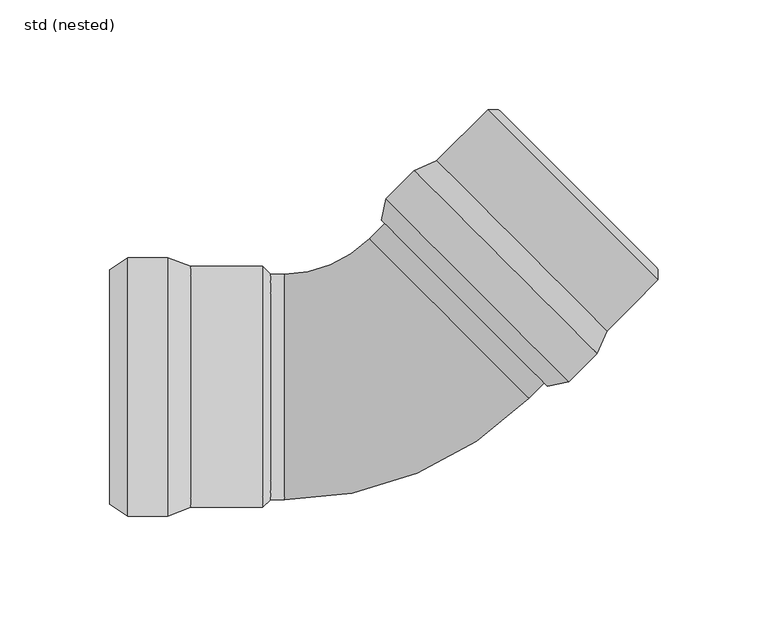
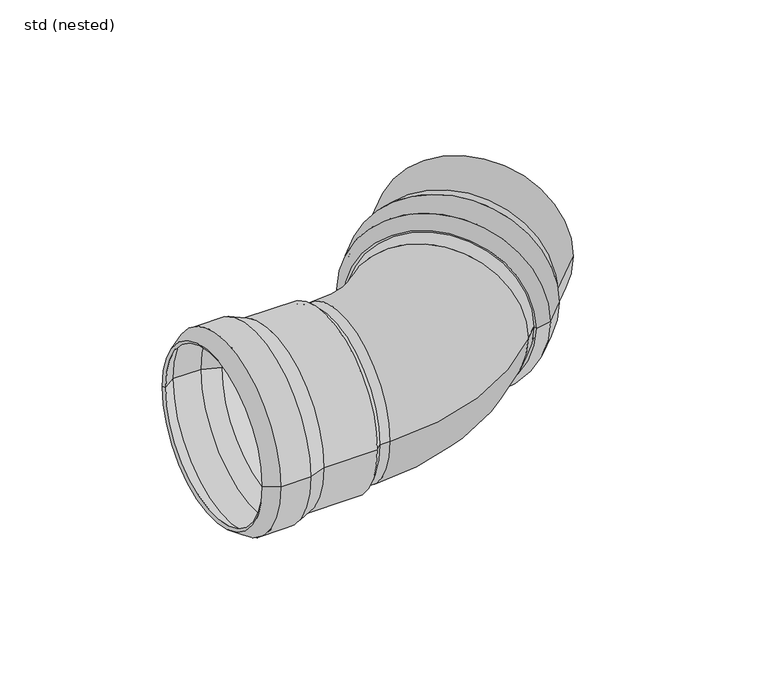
"""IFC4 building model written with IfcOpenShell, lengths in millimetres: pipe fitting geometry, ZZZ_do not use_PIF_ST_UN_GM-X pipe bend_ACO : std (nested)."""

import ifcopenshell
import ifcopenshell.guid

model = None  # the IFC model being written
_history = None  # IfcOwnerHistory: only IFC2X3 demands one
_inside = {}  # id of a spatial element -> (the spatial element, [elements in it])
_under = {}  # id of a project, library or spatial element -> (it, [spatial elements below it])
_declared = {}  # id of a project -> (the project, [libraries it declares])
_typed = {}  # id of a type object -> (the type object, [elements of that type])
_made_of = {}  # id of a material, layer set ... -> (it, [elements and type objects made of it])


def new_model(schema):
    """Start an empty IFC model of exactly this schema.

    Asked for "IFC4X3", IfcOpenShell would pick the latest addendum, in which some entities
    have other attributes; the version numbers below select the first issue.
    IFC2X3 requires an IfcOwnerHistory on every rooted entity: one is made here for all.
    """
    global model, _history
    if schema == "IFC4X3":
        model = ifcopenshell.file(schema_version=(4, 3, 0, 0))
    else:
        model = ifcopenshell.file(schema=schema)
    _inside.clear()
    _under.clear()
    _declared.clear()
    _typed.clear()
    _made_of.clear()
    _history = None
    if model.schema == "IFC2X3":
        org = make("IfcOrganization", Name="unknown")
        user = make(
            "IfcPersonAndOrganization",
            ThePerson=make("IfcPerson", FamilyName="unknown"),
            TheOrganization=org,
        )
        app = make(
            "IfcApplication",
            ApplicationDeveloper=org,
            Version="unknown",
            ApplicationFullName="unknown",
            ApplicationIdentifier="unknown",
        )
        _history = make(
            "IfcOwnerHistory",
            OwningUser=user,
            OwningApplication=app,
            ChangeAction="ADDED",
            CreationDate=0,
        )
    return model


def make(cls, **values):
    """One entity of the class cls with the attributes given. An attribute that is None is left unset."""
    return model.create_entity(
        cls, **{name: value for name, value in values.items() if value is not None}
    )


def rooted(cls, **values):
    """An entity with a GlobalId (a new one), such as an element, a storey or a relation."""
    return make(cls, GlobalId=ifcopenshell.guid.new(), OwnerHistory=_history, **values)


def si_unit(unit_type, name, prefix=None):
    """IfcSIUnit, for example si_unit("LENGTHUNIT", "METRE", prefix="MILLI")."""
    return make("IfcSIUnit", UnitType=unit_type, Prefix=prefix, Name=name)


def assignment(units):
    """IfcUnitAssignment: the units of a project."""
    return None if units is None else make("IfcUnitAssignment", Units=units)


def point(xyz):
    """IfcCartesianPoint."""
    return None if xyz is None else make("IfcCartesianPoint", Coordinates=xyz)


def direction(xyz):
    """IfcDirection."""
    return None if xyz is None else make("IfcDirection", DirectionRatios=xyz)


def frame(location, z_axis=None, x_axis=None):
    """IfcAxis2Placement3D, a coordinate frame: its origin and axes. An axis left out is left unset."""
    return make(
        "IfcAxis2Placement3D",
        Location=point(location),
        Axis=direction(z_axis),
        RefDirection=direction(x_axis),
    )


def origin():
    """The frame at (0, 0, 0) with its axes left unset."""
    return frame((0.0, 0.0, 0.0))


def place(relative_to, where):
    """IfcLocalPlacement: puts the frame where relative to a parent placement (None: the world)."""
    return make(
        "IfcLocalPlacement", PlacementRelTo=relative_to, RelativePlacement=where
    )


def context(
    kind, dimensions, precision=None, world=None, true_north=None, identifier=None
):
    """IfcGeometricRepresentationContext, for example the 3D "Model" context."""
    return make(
        "IfcGeometricRepresentationContext",
        ContextIdentifier=identifier,
        ContextType=kind,
        CoordinateSpaceDimension=dimensions,
        Precision=precision,
        WorldCoordinateSystem=world,
        TrueNorth=true_north,
    )


def project(units=None, contexts=None):
    """IfcProject with its units and contexts."""
    return rooted(
        "IfcProject",
        Name="project",
        RepresentationContexts=contexts,
        UnitsInContext=assignment(units),
    )


def spatial(cls, under=None, at=None, **own):
    """A site, building, storey or space (cls), placed at a placement, below another one or the project."""
    s = rooted(cls, ObjectPlacement=at, **own)
    if under is not None:
        _under.setdefault(under.id(), (under, []))[1].append(s)
    return s


def polyline(points):
    """IfcPolyline through the points."""
    return make("IfcPolyline", Points=[point(p) for p in points])


def circle_curve(where, radius):
    """IfcCircle in the frame where."""
    return make("IfcCircle", Position=where, Radius=radius)


def ellipse_curve(where, semi_axis1, semi_axis2):
    """IfcEllipse in the frame where."""
    return make(
        "IfcEllipse", Position=where, SemiAxis1=semi_axis1, SemiAxis2=semi_axis2
    )


def trimmed(basis, trim1, trim2, sense, master):
    """IfcTrimmedCurve: the piece of a basis curve between two trims."""
    return make(
        "IfcTrimmedCurve",
        BasisCurve=basis,
        Trim1=trim1,
        Trim2=trim2,
        SenseAgreement=sense,
        MasterRepresentation=master,
    )


def shape(context_of_items, identifier, shape_type, items):
    """IfcShapeRepresentation: the items that make up one representation, for example the "Body"."""
    return make(
        "IfcShapeRepresentation",
        ContextOfItems=context_of_items,
        RepresentationIdentifier=identifier,
        RepresentationType=shape_type,
        Items=items,
    )


def source(mapping_origin, context_of_items, identifier, shape_type, items):
    """IfcRepresentationMap: a shape defined once, which mapped items show again and again."""
    return make(
        "IfcRepresentationMap",
        MappingOrigin=mapping_origin,
        MappedRepresentation=shape(context_of_items, identifier, shape_type, items),
    )


def transform(
    local_origin,
    x_axis=None,
    y_axis=None,
    z_axis=None,
    scale=None,
    scale2=None,
    scale3=None,
    uniform=True,
):
    """IfcCartesianTransformationOperator3D, or its non-uniform kind. x_axis, y_axis, z_axis: its Axis1, 2, 3."""
    if uniform:
        return make(
            "IfcCartesianTransformationOperator3D",
            Axis1=direction(x_axis),
            Axis2=direction(y_axis),
            LocalOrigin=point(local_origin),
            Scale=scale,
            Axis3=direction(z_axis),
        )
    return make(
        "IfcCartesianTransformationOperator3DnonUniform",
        Axis1=direction(x_axis),
        Axis2=direction(y_axis),
        LocalOrigin=point(local_origin),
        Scale=scale,
        Axis3=direction(z_axis),
        Scale2=scale2,
        Scale3=scale3,
    )


def mapped(mapping_source, mapping_target):
    """IfcMappedItem: shows the shape of a source again, moved by a transform."""
    return make(
        "IfcMappedItem", MappingSource=mapping_source, MappingTarget=mapping_target
    )


def made_of(thing, what):
    """Note that an element or type object is made of a material, layer set ...; save() writes the relation."""
    if what is not None:
        _made_of.setdefault(what.id(), (what, []))[1].append(thing)
    return thing


def element(
    cls,
    number,
    at=None,
    inside=None,
    cuts=None,
    type_object=None,
    material=None,
    context=None,
    identifier="Body",
    shape_type=None,
    held_by="IfcProductDefinitionShape",
    body=None,
    shapes=None,
    **own,
):
    """One element of the class cls, such as IfcWall. Its Tag is "e" and its number.

    at: its placement. inside: the storey or other place that contains it. cuts: it is an
    opening in that element (IfcRelVoidsElement). A single representation is given by context,
    identifier, shape_type and body (its items); several are given by shapes. held_by: the class
    of the entity that holds the representations. save() writes the other relations.
    """
    e = rooted(cls, Tag="e%d" % number, ObjectPlacement=at, **own)
    if body is not None:
        shapes = [shape(context, identifier, shape_type, body)]
    if shapes is not None:
        e.Representation = make(held_by, Representations=shapes)
    if inside is not None:
        _inside.setdefault(inside.id(), (inside, []))[1].append(e)
    if cuts is not None:
        rooted(
            "IfcRelVoidsElement", RelatingBuildingElement=cuts, RelatedOpeningElement=e
        )
    if type_object is not None:
        _typed.setdefault(type_object.id(), (type_object, []))[1].append(e)
    return made_of(e, material)


def aggregate(whole, parts):
    """IfcRelAggregates: a whole, such as a stair, and the parts it consists of."""
    return rooted("IfcRelAggregates", RelatingObject=whole, RelatedObjects=parts)


def save(model, path):
    """Write the relations noted so far, then the file.

    IfcRelAggregates (storeys below a building ...), IfcRelContainedInSpatialStructure (elements
    in a storey), IfcRelDefinesByType, IfcRelAssociatesMaterial and IfcRelDeclares: one each for
    every whole, place, type object, material and project.
    """
    for whole, parts in _under.values():
        aggregate(whole, parts)
    for where, things in _inside.values():
        rooted(
            "IfcRelContainedInSpatialStructure",
            RelatedElements=things,
            RelatingStructure=where,
        )
    for kind, things in _typed.values():
        rooted("IfcRelDefinesByType", RelatedObjects=things, RelatingType=kind)
    for what, things in _made_of.values():
        rooted("IfcRelAssociatesMaterial", RelatedObjects=things, RelatingMaterial=what)
    for by, libraries in _declared.values():
        rooted("IfcRelDeclares", RelatingContext=by, RelatedDefinitions=libraries)
    model.write(path)


def plane_surface(at):
    """IfcPlane: the flat surface through the origin of the frame at, square to its z axis."""
    return make("IfcPlane", Position=at)


def cylinder_surface(at, radius):
    """IfcCylindricalSurface: all points at the distance radius from the z axis of the frame at."""
    return make("IfcCylindricalSurface", Position=at, Radius=radius)


def revolved_surface(curve, axis_point, axis_direction):
    """IfcSurfaceOfRevolution: the curve turned about the line through axis_point along axis_direction."""
    return make(
        "IfcSurfaceOfRevolution",
        SweptCurve=make("IfcArbitraryOpenProfileDef", ProfileType="CURVE", Curve=curve),
        AxisPosition=make("IfcAxis1Placement", Location=point(axis_point), Axis=direction(axis_direction)),
    )


def advanced_brep(points, edges, surfaces, faces):
    """IfcAdvancedBrep: a solid bounded by faces that lie on surfaces and meet in shared edges.

    An edge is (start, end): straight between two places in points (the first is 0);
    or (start, end, curve); or (start, end, curve, False) where it runs against its curve.
    A face is (place in surfaces, loops), or (place, loops, False) where it looks against
    its surface's normal. A loop lists edges by number (the first is 1), with a minus sign
    where the edge is run from its end to its start. The first loop is the outer one.
    """
    corners = [point(p) for p in points]
    vertices = [make("IfcVertexPoint", VertexGeometry=c) for c in corners]
    made = []
    for start, end, *more in edges:
        made.append(
            make(
                "IfcEdgeCurve",
                EdgeStart=vertices[start],
                EdgeEnd=vertices[end],
                EdgeGeometry=more[0] if more else make("IfcPolyline", Points=[corners[start], corners[end]]),
                SameSense=more[1] if len(more) > 1 else True,
            )
        )
    hull = []
    for where, loops, *sense in faces:
        bounds = []
        for j, loop in enumerate(loops):
            ring = [make("IfcOrientedEdge", EdgeElement=made[abs(k) - 1], Orientation=k > 0) for k in loop]
            bounds.append(
                make(
                    "IfcFaceOuterBound" if j == 0 else "IfcFaceBound",
                    Bound=make("IfcEdgeLoop", EdgeList=ring),
                    Orientation=True,
                )
            )
        hull.append(make("IfcAdvancedFace", Bounds=bounds, FaceSurface=surfaces[where], SameSense=sense[0] if sense else True))
    return make("IfcAdvancedBrep", Outer=make("IfcClosedShell", CfsFaces=hull))


def std_nested_e6348f04(model_context):
    return source(origin(), model_context, "Body", "AdvancedBrep", [
        advanced_brep(
        [(15.2027958, 98.641396, 0.0), (98.641396, 15.2027958, 0.0), (85.7720526, 2.3334524, 0.0), (2.3334524, 85.7720526, 0.0), (25.4558441, 103.2375901, 0.0), (103.2375901, 25.4558441, 0.0), (76.013979, 0.3535534, 0.0), (0.3535534, 76.013979, 0.0), (48.7903679, 126.5721138, 0.0), (126.5721138, 48.7903679, 0.0), (53.7401154, 126.5721138, 0.0), (126.5721138, 53.7401154, 0.0), (51.2652416, 124.0972401, 0.0), (124.0972401, 51.2652416, 0.0), (26.6098061, 101.5631249, 0.0), (101.5631249, 26.6098061, 0.0), (125.1579003, 50.2045815, 0.0), (50.2045815, 125.1579003, 0.0), (16.3567578, 96.9669309, 0.0), (96.9669309, 16.3567578, 0.0), (4.173706, 84.7838791, 0.0), (84.7838791, 4.173706, 0.0), (2.3136146, 75.6162854, 0.0), (75.6162854, 2.3136146, 0.0)],
        [
            (0, 1, circle_curve(frame((56.9220959, 56.9220959, 0.0), z_axis=(-0.7071067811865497, -0.7071067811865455, 0.0), x_axis=(0.7071067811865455, -0.7071067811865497, 0.0)), 59.0)),
            (1, 2),
            (2, 3, circle_curve(frame((44.0527525, 44.0527525, 0.0), z_axis=(0.7071067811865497, 0.7071067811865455, 0.0), x_axis=(0.7071067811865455, -0.7071067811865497, 0.0)), 59.0)),
            (3, 0),
            (1, 0, circle_curve(frame((56.9220959, 56.9220959, 0.0), z_axis=(-0.7071067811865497, -0.7071067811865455, 0.0), x_axis=(0.7071067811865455, -0.7071067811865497, 0.0)), 59.0)),
            (3, 2, circle_curve(frame((44.0527525, 44.0527525, 0.0), z_axis=(0.7071067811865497, 0.7071067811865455, 0.0), x_axis=(0.7071067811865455, -0.7071067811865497, 0.0)), 59.0)),
            (4, 5, circle_curve(frame((64.3467171, 64.3467171, 0.0), z_axis=(-0.7071067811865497, -0.7071067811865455, 0.0), x_axis=(0.7071067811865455, -0.7071067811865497, 0.0)), 55.0)),
            (5, 1),
            (0, 4),
            (5, 4, circle_curve(frame((64.3467171, 64.3467171, 0.0), z_axis=(-0.7071067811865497, -0.7071067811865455, 0.0), x_axis=(0.7071067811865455, -0.7071067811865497, 0.0)), 55.0)),
            (2, 6),
            (6, 7, circle_curve(frame((38.1837662, 38.1837662, 0.0), z_axis=(0.7071067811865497, 0.7071067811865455, 0.0), x_axis=(0.7071067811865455, -0.7071067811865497, 0.0)), 53.5)),
            (7, 3),
            (7, 6, circle_curve(frame((38.1837662, 38.1837662, 0.0), z_axis=(0.7071067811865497, 0.7071067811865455, 0.0), x_axis=(0.7071067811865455, -0.7071067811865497, 0.0)), 53.5)),
            (8, 9, circle_curve(frame((87.6812409, 87.6812409, 0.0), z_axis=(-0.7071067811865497, -0.7071067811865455, 0.0), x_axis=(0.7071067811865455, -0.7071067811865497, 0.0)), 55.0)),
            (9, 5),
            (4, 8),
            (9, 8, circle_curve(frame((87.6812409, 87.6812409, 0.0), z_axis=(-0.7071067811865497, -0.7071067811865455, 0.0), x_axis=(0.7071067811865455, -0.7071067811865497, 0.0)), 55.0)),
            (10, 11, circle_curve(frame((90.1561146, 90.1561146, 0.0), z_axis=(-0.7071067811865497, -0.7071067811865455, 0.0), x_axis=(0.7071067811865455, -0.7071067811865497, 0.0)), 51.5)),
            (11, 9),
            (8, 10),
            (11, 10, circle_curve(frame((90.1561146, 90.1561146, 0.0), z_axis=(-0.7071067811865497, -0.7071067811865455, 0.0), x_axis=(0.7071067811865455, -0.7071067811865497, 0.0)), 51.5)),
            (12, 13, circle_curve(frame((87.6812409, 87.6812409, 0.0), z_axis=(-0.7071067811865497, -0.7071067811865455, 0.0), x_axis=(0.7071067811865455, -0.7071067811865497, 0.0)), 51.5)),
            (13, 11),
            (10, 12),
            (13, 12, circle_curve(frame((87.6812409, 87.6812409, 0.0), z_axis=(-0.7071067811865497, -0.7071067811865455, 0.0), x_axis=(0.7071067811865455, -0.7071067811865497, 0.0)), 51.5)),
            (14, 15, circle_curve(frame((64.0864655, 64.0864655, 0.0), z_axis=(-0.7071067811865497, -0.7071067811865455, 0.0), x_axis=(0.7071067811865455, -0.7071067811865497, 0.0)), 53.0)),
            (15, 16),
            (16, 17, circle_curve(frame((87.6812409, 87.6812409, 0.0), z_axis=(0.7071067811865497, 0.7071067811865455, 0.0), x_axis=(0.7071067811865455, -0.7071067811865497, 0.0)), 53.0)),
            (17, 14),
            (15, 14, circle_curve(frame((64.0864655, 64.0864655, 0.0), z_axis=(-0.7071067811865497, -0.7071067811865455, 0.0), x_axis=(0.7071067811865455, -0.7071067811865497, 0.0)), 53.0)),
            (17, 16, circle_curve(frame((87.6812409, 87.6812409, 0.0), z_axis=(0.7071067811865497, 0.7071067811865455, 0.0), x_axis=(0.7071067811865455, -0.7071067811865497, 0.0)), 53.0)),
            (18, 19, circle_curve(frame((56.6618443, 56.6618443, 0.0), z_axis=(-0.7071067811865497, -0.7071067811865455, 0.0), x_axis=(0.7071067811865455, -0.7071067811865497, 0.0)), 57.0)),
            (19, 15),
            (14, 18),
            (19, 18, circle_curve(frame((56.6618443, 56.6618443, 0.0), z_axis=(-0.7071067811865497, -0.7071067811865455, 0.0), x_axis=(0.7071067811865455, -0.7071067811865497, 0.0)), 57.0)),
            (20, 21, circle_curve(frame((44.4787926, 44.4787926, 0.0), z_axis=(-0.7071067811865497, -0.7071067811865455, 0.0), x_axis=(0.7071067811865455, -0.7071067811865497, 0.0)), 57.0)),
            (21, 19),
            (18, 20),
            (21, 20, circle_curve(frame((44.4787926, 44.4787926, 0.0), z_axis=(-0.7071067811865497, -0.7071067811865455, 0.0), x_axis=(0.7071067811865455, -0.7071067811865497, 0.0)), 57.0)),
            (22, 23, circle_curve(frame((38.96495, 38.96495, 0.0), z_axis=(-0.7071067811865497, -0.7071067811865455, 0.0), x_axis=(0.7071067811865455, -0.7071067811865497, 0.0)), 51.8328156)),
            (23, 21),
            (20, 22),
            (23, 22, circle_curve(frame((38.96495, 38.96495, 0.0), z_axis=(-0.7071067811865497, -0.7071067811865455, 0.0), x_axis=(0.7071067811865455, -0.7071067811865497, 0.0)), 51.8328156)),
            (6, 23),
            (22, 7),
            (16, 13),
            (12, 17),
        ],
        [
            cylinder_surface(frame((40.5565254, 40.5565254, 0.0), z_axis=(0.7071067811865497, 0.7071067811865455, 0.0), x_axis=(0.7071067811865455, -0.7071067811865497, 0.0)), 59.0),
            revolved_surface(polyline([(98.641396, 15.2027958, 0.0), (103.2375901, 25.4558441, 0.0)]), (40.5565254, 40.5565254, 0.0), (0.7071067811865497, 0.7071067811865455, 0.0)),
            revolved_surface(polyline([(76.013979, 0.3535534, 0.0), (85.7720526, 2.3334524, 0.0)]), (40.5565254, 40.5565254, 0.0), (0.7071067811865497, 0.7071067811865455, 0.0)),
            cylinder_surface(frame((40.5565254, 40.5565254, 0.0), z_axis=(0.7071067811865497, 0.7071067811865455, 0.0), x_axis=(0.7071067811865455, -0.7071067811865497, 0.0)), 55.0),
            revolved_surface(polyline([(126.5721138, 48.7903679, 0.0), (126.5721138, 53.7401154, 0.0)]), (40.5565254, 40.5565254, 0.0), (0.7071067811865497, 0.7071067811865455, 0.0)),
            revolved_surface(polyline([(126.57211383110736, 53.74011536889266, 0.0), (124.09724008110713, 51.265241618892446, 0.0)]), (40.5565254, 40.5565254, 0.0), (0.7071067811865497, 0.7071067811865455, 0.0)),
            revolved_surface(polyline([(125.15790030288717, 50.20458149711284, 0.0), (101.56312490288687, 26.609806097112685, 0.0)]), (40.5565254, 40.5565254, 0.0), (0.7071067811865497, 0.7071067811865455, 0.0)),
            revolved_surface(polyline([(101.5631249, 26.6098061, 0.0), (96.9669309, 16.3567578, 0.0)]), (40.5565254, 40.5565254, 0.0), (0.7071067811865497, 0.7071067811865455, 0.0)),
            revolved_surface(polyline([(96.96693087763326, 16.356757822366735, 0.0), (84.78387907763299, 4.173706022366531, 0.0)]), (40.5565254, 40.5565254, 0.0), (0.7071067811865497, 0.7071067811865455, 0.0)),
            revolved_surface(polyline([(84.7838791, 4.173706, 0.0), (75.6162854, 2.3136146, 0.0)]), (40.5565254, 40.5565254, 0.0), (0.7071067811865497, 0.7071067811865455, 0.0)),
            revolved_surface(polyline([(75.6162854, 2.3136146, 0.0), (76.013979, 0.3535534, 0.0)]), (40.5565254, 40.5565254, 0.0), (0.7071067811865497, 0.7071067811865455, 0.0)),
            plane_surface(frame((87.6812409, 87.6812409, 0.0), z_axis=(-0.7071067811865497, -0.7071067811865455, 0.0), x_axis=(0.7071067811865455, -0.7071067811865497, 0.0))),
        ],
        [
            (0, [[1, 2, 3, 4]]),
            (0, [[5, -4, 6, -2]]),
            (1, [[7, 8, -1, 9]]),
            (1, [[10, -9, -5, -8]]),
            (2, [[-3, 11, 12, 13]]),
            (2, [[-6, -13, 14, -11]]),
            (3, [[15, 16, -7, 17]]),
            (3, [[18, -17, -10, -16]]),
            (4, [[19, 20, -15, 21]]),
            (4, [[22, -21, -18, -20]]),
            (5, [[23, 24, -19, 25]]),
            (5, [[26, -25, -22, -24]]),
            (6, [[27, 28, 29, 30]]),
            (6, [[31, -30, 32, -28]]),
            (7, [[33, 34, -27, 35]]),
            (7, [[36, -35, -31, -34]]),
            (8, [[37, 38, -33, 39]]),
            (8, [[40, -39, -36, -38]]),
            (9, [[41, 42, -37, 43]]),
            (9, [[44, -43, -40, -42]]),
            (10, [[-12, 45, -41, 46]]),
            (10, [[-14, -46, -44, -45]]),
            (11, [[-29, 47, -23, 48]]),
            (11, [[-32, -48, -26, -47]]),
        ],
    ),
        advanced_brep(
        [(-97.5, 59.0, 0.0), (-97.5, -59.0, 0.0), (-115.7, -59.0, 0.0), (-115.7, 59.0, 0.0), (-87.0, 55.0, 0.0), (-87.0, -55.0, 0.0), (-124.0, -53.5, 0.0), (-124.0, 53.5, 0.0), (-54.0, 55.0, 0.0), (-54.0, -55.0, 0.0), (-50.5, 51.5, 0.0), (-50.5, -51.5, 0.0), (-54.0, 51.5, 0.0), (-54.0, -51.5, 0.0), (-87.3680513, 53.0, 0.0), (-87.3680513, -53.0, 0.0), (-54.0, -53.0, 0.0), (-54.0, 53.0, 0.0), (-97.8680513, 57.0, 0.0), (-97.8680513, -57.0, 0.0), (-115.0974883, 57.0, 0.0), (-115.0974883, -57.0, 0.0), (-122.8952393, 51.8328156, 0.0), (-122.8952393, -51.8328156, 0.0)],
        [
            (0, 1, circle_curve(frame((-97.5, 0.0, 0.0), z_axis=(-1.0, 0.0, 0.0), x_axis=(0.0, -1.0, 0.0)), 59.0)),
            (1, 2),
            (2, 3, circle_curve(frame((-115.7, 0.0, 0.0), z_axis=(1.0, 0.0, 0.0), x_axis=(0.0, -1.0, 0.0)), 59.0)),
            (3, 0),
            (1, 0, circle_curve(frame((-97.5, 0.0, 0.0), z_axis=(-1.0, 0.0, 0.0), x_axis=(0.0, -1.0, 0.0)), 59.0)),
            (3, 2, circle_curve(frame((-115.7, 0.0, 0.0), z_axis=(1.0, 0.0, 0.0), x_axis=(0.0, -1.0, 0.0)), 59.0)),
            (4, 5, circle_curve(frame((-87.0, 0.0, 0.0), z_axis=(-1.0, 0.0, 0.0), x_axis=(0.0, -1.0, 0.0)), 55.0)),
            (5, 1),
            (0, 4),
            (5, 4, circle_curve(frame((-87.0, 0.0, 0.0), z_axis=(-1.0, 0.0, 0.0), x_axis=(0.0, -1.0, 0.0)), 55.0)),
            (2, 6),
            (6, 7, circle_curve(frame((-124.0, 0.0, 0.0), z_axis=(1.0, 0.0, 0.0), x_axis=(0.0, -1.0, 0.0)), 53.5)),
            (7, 3),
            (7, 6, circle_curve(frame((-124.0, 0.0, 0.0), z_axis=(1.0, 0.0, 0.0), x_axis=(0.0, -1.0, 0.0)), 53.5)),
            (8, 9, circle_curve(frame((-54.0, 0.0, 0.0), z_axis=(-1.0, 0.0, 0.0), x_axis=(0.0, -1.0, 0.0)), 55.0)),
            (9, 5),
            (4, 8),
            (9, 8, circle_curve(frame((-54.0, 0.0, 0.0), z_axis=(-1.0, 0.0, 0.0), x_axis=(0.0, -1.0, 0.0)), 55.0)),
            (10, 11, circle_curve(frame((-50.5, 0.0, 0.0), z_axis=(-1.0, 0.0, 0.0), x_axis=(0.0, -1.0, 0.0)), 51.5)),
            (11, 9),
            (8, 10),
            (11, 10, circle_curve(frame((-50.5, 0.0, 0.0), z_axis=(-1.0, 0.0, 0.0), x_axis=(0.0, -1.0, 0.0)), 51.5)),
            (12, 13, circle_curve(frame((-54.0, 0.0, 0.0), z_axis=(-1.0, 0.0, 0.0), x_axis=(0.0, -1.0, 0.0)), 51.5)),
            (13, 11),
            (10, 12),
            (13, 12, circle_curve(frame((-54.0, 0.0, 0.0), z_axis=(-1.0, 0.0, 0.0), x_axis=(0.0, -1.0, 0.0)), 51.5)),
            (14, 15, circle_curve(frame((-87.3680513, 0.0, 0.0), z_axis=(-1.0, 0.0, 0.0), x_axis=(0.0, -1.0, 0.0)), 53.0)),
            (15, 16),
            (16, 17, circle_curve(frame((-54.0, 0.0, 0.0), z_axis=(1.0, 0.0, 0.0), x_axis=(0.0, -1.0, 0.0)), 53.0)),
            (17, 14),
            (15, 14, circle_curve(frame((-87.3680513, 0.0, 0.0), z_axis=(-1.0, 0.0, 0.0), x_axis=(0.0, -1.0, 0.0)), 53.0)),
            (17, 16, circle_curve(frame((-54.0, 0.0, 0.0), z_axis=(1.0, 0.0, 0.0), x_axis=(0.0, -1.0, 0.0)), 53.0)),
            (18, 19, circle_curve(frame((-97.8680513, 0.0, 0.0), z_axis=(-1.0, 0.0, 0.0), x_axis=(0.0, -1.0, 0.0)), 57.0)),
            (19, 15),
            (14, 18),
            (19, 18, circle_curve(frame((-97.8680513, 0.0, 0.0), z_axis=(-1.0, 0.0, 0.0), x_axis=(0.0, -1.0, 0.0)), 57.0)),
            (20, 21, circle_curve(frame((-115.0974883, 0.0, 0.0), z_axis=(-1.0, 0.0, 0.0), x_axis=(0.0, -1.0, 0.0)), 57.0)),
            (21, 19),
            (18, 20),
            (21, 20, circle_curve(frame((-115.0974883, 0.0, 0.0), z_axis=(-1.0, 0.0, 0.0), x_axis=(0.0, -1.0, 0.0)), 57.0)),
            (22, 23, circle_curve(frame((-122.8952393, 0.0, 0.0), z_axis=(-1.0, 0.0, 0.0), x_axis=(0.0, -1.0, 0.0)), 51.8328156)),
            (23, 21),
            (20, 22),
            (23, 22, circle_curve(frame((-122.8952393, 0.0, 0.0), z_axis=(-1.0, 0.0, 0.0), x_axis=(0.0, -1.0, 0.0)), 51.8328156)),
            (6, 23),
            (22, 7),
            (16, 13),
            (12, 17),
        ],
        [
            cylinder_surface(frame((-120.6444117, 0.0, 0.0), z_axis=(1.0, 0.0, 0.0), x_axis=(0.0, -1.0, 0.0)), 59.0),
            revolved_surface(polyline([(-97.5, -59.0, 0.0), (-87.0, -55.0, 0.0)]), (-120.6444117, 0.0, 0.0), (1.0, 0.0, 0.0)),
            revolved_surface(polyline([(-124.0, -53.5, 0.0), (-115.7, -59.0, 0.0)]), (-120.6444117, 0.0, 0.0), (1.0, 0.0, 0.0)),
            cylinder_surface(frame((-120.6444117, 0.0, 0.0), z_axis=(1.0, 0.0, 0.0), x_axis=(0.0, -1.0, 0.0)), 55.0),
            revolved_surface(polyline([(-54.0, -55.0, 0.0), (-50.5, -51.5, 0.0)]), (-120.6444117, 0.0, 0.0), (1.0, 0.0, 0.0)),
            revolved_surface(polyline([(-50.5, -51.5, 0.0), (-54.0, -51.5, 0.0)]), (-120.6444117, 0.0, 0.0), (1.0, 0.0, 0.0)),
            revolved_surface(polyline([(-54.0, -53.0, 0.0), (-87.3680513, -53.0, 0.0)]), (-120.6444117, 0.0, 0.0), (1.0, 0.0, 0.0)),
            revolved_surface(polyline([(-87.3680513, -53.0, 0.0), (-97.8680513, -57.0, 0.0)]), (-120.6444117, 0.0, 0.0), (1.0, 0.0, 0.0)),
            revolved_surface(polyline([(-97.8680513, -57.0, 0.0), (-115.0974883, -57.0, 0.0)]), (-120.6444117, 0.0, 0.0), (1.0, 0.0, 0.0)),
            revolved_surface(polyline([(-115.0974883, -57.0, 0.0), (-122.8952393, -51.8328156, 0.0)]), (-120.6444117, 0.0, 0.0), (1.0, 0.0, 0.0)),
            revolved_surface(polyline([(-122.8952393, -51.8328156, 0.0), (-124.0, -53.5, 0.0)]), (-120.6444117, 0.0, 0.0), (1.0, 0.0, 0.0)),
            plane_surface(frame((-54.0, 0.0, 0.0), z_axis=(-1.0, 0.0, 0.0), x_axis=(0.0, -1.0, 0.0))),
        ],
        [
            (0, [[1, 2, 3, 4]]),
            (0, [[5, -4, 6, -2]]),
            (1, [[7, 8, -1, 9]]),
            (1, [[10, -9, -5, -8]]),
            (2, [[-3, 11, 12, 13]]),
            (2, [[-6, -13, 14, -11]]),
            (3, [[15, 16, -7, 17]]),
            (3, [[18, -17, -10, -16]]),
            (4, [[19, 20, -15, 21]]),
            (4, [[22, -21, -18, -20]]),
            (5, [[23, 24, -19, 25]]),
            (5, [[26, -25, -22, -24]]),
            (6, [[27, 28, 29, 30]]),
            (6, [[31, -30, 32, -28]]),
            (7, [[33, 34, -27, 35]]),
            (7, [[36, -35, -31, -34]]),
            (8, [[37, 38, -33, 39]]),
            (8, [[40, -39, -36, -38]]),
            (9, [[41, 42, -37, 43]]),
            (9, [[44, -43, -40, -42]]),
            (10, [[-12, 45, -41, 46]]),
            (10, [[-14, -46, -44, -45]]),
            (11, [[-29, 47, -23, 48]]),
            (11, [[-32, -48, -26, -47]]),
        ],
    ),
        advanced_brep(
        [(-5.3033009, 67.5286976, 0.0), (-44.0, 51.5, 0.0), (-44.0, -51.5, 0.0), (67.5286976, -5.3033009, 0.0), (31.1126984, 31.1126984, 51.5), (31.1126984, 31.1126984, -51.5), (-54.0, -51.5, 0.0), (-54.0, 51.5, 0.0), (124.0972401, 51.2652416, 0.0), (51.2652416, 124.0972401, 0.0)],
        [
            (0, 1, circle_curve(frame((-44.0, 106.2253967, 0.0), z_axis=(0.0, 0.0, -1.0), x_axis=(0.0, -1.0, 0.0)), 54.7253967)),
            (1, 2, circle_curve(frame((-44.0, 0.0, 0.0), z_axis=(1.0, 0.0, 0.0), x_axis=(0.0, 1.0, 0.0)), 51.5)),
            (2, 3, circle_curve(frame((-44.0, 106.2253967, 0.0), z_axis=(0.0, 0.0, 1.0), x_axis=(0.0, -1.0, 0.0)), 157.7253967)),
            (3, 4, circle_curve(frame((31.1126984, 31.1126984, 0.0), z_axis=(-0.7071067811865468, -0.7071067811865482, 0.0), x_axis=(-0.7071067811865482, 0.7071067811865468, 0.0)), 51.5)),
            (4, 0, circle_curve(frame((31.1126984, 31.1126984, 0.0), z_axis=(-0.7071067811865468, -0.7071067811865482, 0.0), x_axis=(-0.7071067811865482, 0.7071067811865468, 0.0)), 51.5)),
            (0, 5, circle_curve(frame((31.1126984, 31.1126984, 0.0), z_axis=(-0.7071067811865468, -0.7071067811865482, 0.0), x_axis=(-0.7071067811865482, 0.7071067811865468, 0.0)), 51.5)),
            (5, 3, circle_curve(frame((31.1126984, 31.1126984, 0.0), z_axis=(-0.7071067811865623, -0.7071067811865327, 0.0), x_axis=(-0.7071067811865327, 0.7071067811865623, 0.0)), 51.5)),
            (2, 1, circle_curve(frame((-44.0, 0.0, 0.0), z_axis=(1.0, 0.0, 0.0), x_axis=(0.0, 1.0, 0.0)), 51.5)),
            (6, 7, circle_curve(frame((-54.0, 0.0, 0.0), z_axis=(-1.0, 0.0, 0.0), x_axis=(0.0, 1.0, 0.0)), 51.5)),
            (7, 6, circle_curve(frame((-54.0, 0.0, 0.0), z_axis=(-1.0, 0.0, 0.0), x_axis=(0.0, 1.0, 0.0)), 51.5)),
            (7, 1),
            (2, 6),
            (8, 9, circle_curve(frame((87.6812409, 87.6812409, 0.0), z_axis=(0.707106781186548, 0.7071067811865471, 0.0), x_axis=(-0.7071067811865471, 0.707106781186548, 0.0)), 51.5)),
            (9, 8, circle_curve(frame((87.6812409, 87.6812409, 0.0), z_axis=(0.707106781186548, 0.7071067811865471, 0.0), x_axis=(-0.7071067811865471, 0.707106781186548, 0.0)), 51.5)),
            (9, 0),
            (3, 8),
        ],
        [
            revolved_surface(trimmed(ellipse_curve(frame((-44.0, 0.0, 0.0), z_axis=(-1.0, 0.0, 0.0), x_axis=(0.0, 1.0, 0.0)), 51.5, 51.5), [point((-44.0, -51.5, 0.0))], [point((-44.0, 51.5, 0.0))], True, "CARTESIAN"), (-44.0, 106.2253967, 0.0), (0.0, 0.0, 1.0)),
            revolved_surface(trimmed(ellipse_curve(frame((-44.0, 0.0, 0.0), z_axis=(-1.0, 0.0, 0.0), x_axis=(0.0, 1.0, 0.0)), 51.5, 51.5), [point((-44.0, 51.5, 0.0))], [point((-44.0, -51.5, 0.0))], True, "CARTESIAN"), (-44.0, 106.2253967, 0.0), (0.0, 0.0, 1.0)),
            plane_surface(frame((-54.0, 51.5, 0.0), z_axis=(-1.0, 0.0, 0.0), x_axis=(0.0, 0.0, -1.0))),
            cylinder_surface(frame((-54.0, 0.0, 0.0), z_axis=(1.0, 0.0, 0.0), x_axis=(0.0, 1.0, 0.0)), 51.5),
            plane_surface(frame((87.6812409, 87.6812409, 0.0), z_axis=(0.707106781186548, 0.7071067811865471, 0.0), x_axis=(0.0, 0.0, 1.0))),
            cylinder_surface(frame((31.1126984, 31.1126984, 0.0), z_axis=(-0.707106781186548, -0.7071067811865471, 0.0), x_axis=(-0.7071067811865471, 0.707106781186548, 0.0)), 51.5),
        ],
        [
            (0, [[1, 2, 3, 4, 5]]),
            (1, [[-1, 6, 7, -3, 8]]),
            (2, [[9, 10]]),
            (3, [[-10, 11, -8, 12]]),
            (3, [[-9, -12, -2, -11]]),
            (4, [[13, 14]]),
            (5, [[-14, 15, -5, -4, 16]]),
            (5, [[-13, -16, -7, -6, -15]]),
        ],
    ),
    ])


if __name__ == "__main__":
    model = new_model("IFC4")
    model_context = context("Model", 3, world=origin())
    ifc_project = project(units=[si_unit("LENGTHUNIT", "METRE", prefix="MILLI")], contexts=[model_context])
    site = spatial("IfcSite", under=ifc_project)
    building = spatial("IfcBuilding", under=site)
    placement = place(None, origin())
    std_nested_shape = std_nested_e6348f04(model_context)
    element("IfcPipeFitting", 1, ObjectType="ZZZ_do not use_PIF_ST_UN_GM-X pipe bend_ACO : std (nested)", at=placement, inside=building, context=model_context, shape_type="MappedRepresentation", body=[
        mapped(std_nested_shape, transform((0.0, 0.0, 0.0), x_axis=(1.0, 0.0, 0.0), y_axis=(0.0, 1.0, 0.0), z_axis=(0.0, 0.0, 1.0))),
    ])
    save(model, "model.ifc")
